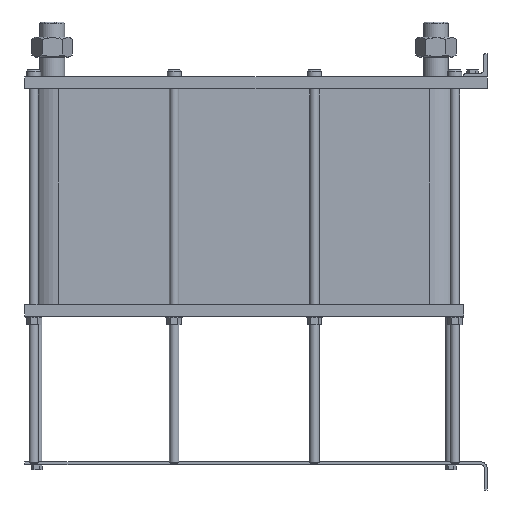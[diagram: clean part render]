
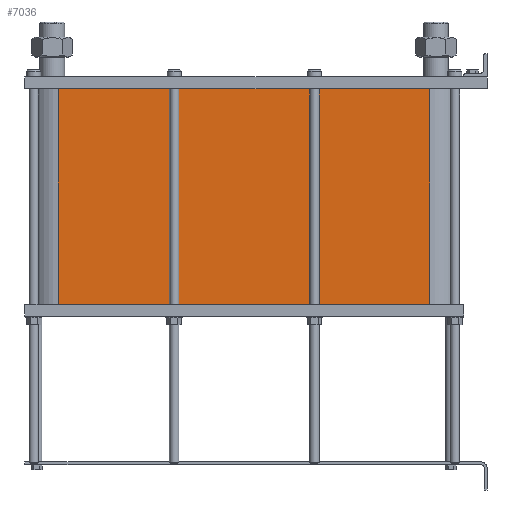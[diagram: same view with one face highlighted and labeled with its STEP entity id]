
A CAD part, left-side view. The second image highlights one B-rep face of the part: STEP entity #7036.
In plain terms, the highlighted planar face has unit normal (-1, 0, 0).
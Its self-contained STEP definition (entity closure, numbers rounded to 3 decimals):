
#999=LINE('',#15640,#1553);
#1031=LINE('',#15723,#1585);
#1032=LINE('',#15726,#1586);
#1033=LINE('',#15727,#1587);
#1553=VECTOR('',#9658,10.);
#1585=VECTOR('',#9736,10.);
#1586=VECTOR('',#9741,10.);
#1587=VECTOR('',#9742,10.);
#2117=FACE_OUTER_BOUND('',#2671,.T.);
#2671=EDGE_LOOP('',(#6246,#6247,#6248,#6249));
#3527=VERTEX_POINT('',#15634);
#3529=VERTEX_POINT('',#15638);
#3556=VERTEX_POINT('',#15720);
#3557=VERTEX_POINT('',#15722);
#4425=EDGE_CURVE('',#3529,#3527,#999,.T.);
#4466=EDGE_CURVE('',#3557,#3556,#1031,.T.);
#4468=EDGE_CURVE('',#3527,#3556,#1032,.T.);
#4469=EDGE_CURVE('',#3557,#3529,#1033,.T.);
#6246=ORIENTED_EDGE('',*,*,#4468,.F.);
#6247=ORIENTED_EDGE('',*,*,#4425,.F.);
#6248=ORIENTED_EDGE('',*,*,#4469,.F.);
#6249=ORIENTED_EDGE('',*,*,#4466,.T.);
#6608=PLANE('',#7812);
#7036=ADVANCED_FACE('',(#2117),#6608,.T.);
#7812=AXIS2_PLACEMENT_3D('',#15725,#9739,#9740);
#9658=DIRECTION('',(0.,0.,-1.));
#9736=DIRECTION('',(0.,0.,-1.));
#9739=DIRECTION('center_axis',(-1.,0.,0.));
#9740=DIRECTION('ref_axis',(0.,1.,0.));
#9741=DIRECTION('',(0.,1.,0.));
#9742=DIRECTION('',(0.,-1.,0.));
#15634=CARTESIAN_POINT('',(-72.,97.5,-368.9));
#15638=CARTESIAN_POINT('',(-72.,97.5,0.));
#15640=CARTESIAN_POINT('',(-72.,97.5,0.));
#15720=CARTESIAN_POINT('',(-72.,733.5,-368.9));
#15722=CARTESIAN_POINT('',(-72.,733.5,0.));
#15723=CARTESIAN_POINT('',(-72.,733.5,0.));
#15725=CARTESIAN_POINT('Origin',(-72.,97.5,0.));
#15726=CARTESIAN_POINT('',(-72.,256.5,-368.9));
#15727=CARTESIAN_POINT('',(-72.,733.5,0.));
